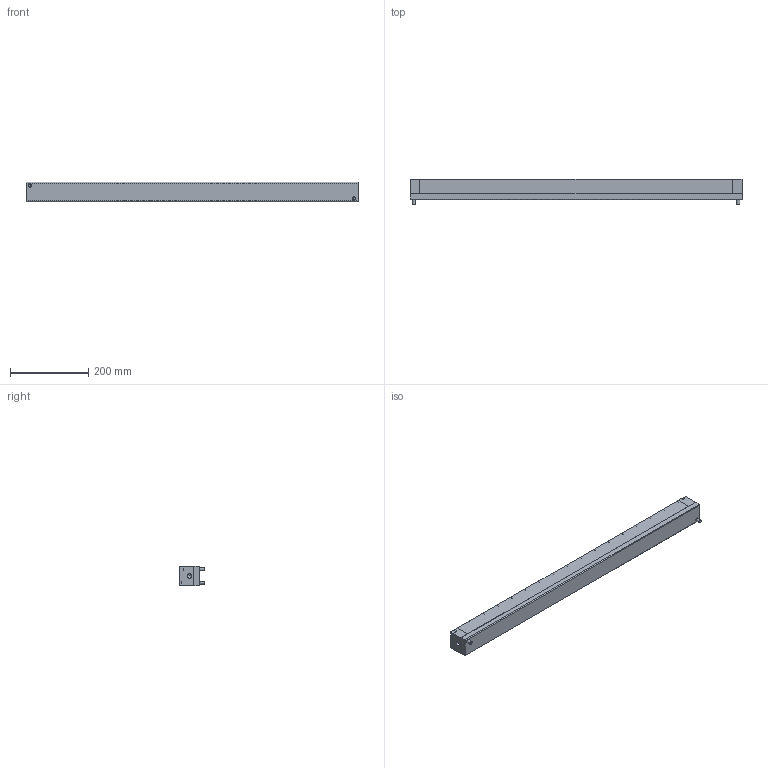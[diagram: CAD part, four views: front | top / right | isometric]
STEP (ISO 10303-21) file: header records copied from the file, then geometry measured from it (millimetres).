
FILE_DESCRIPTION( ( 'STEP AP214' ), '1' );
FILE_NAME( 'Z:/01-DesignData/標準品図面/★Web／カタログ用データ(型式別 3点Set)/072-ISR-C50D 系/ISR-C50D-850-A_0_.stp', '2022-05-10T00:44:25', ( 'License CC BY-ND 4.0' ), ( 'CADENAS' ), ' ', 'PARTsolutions', ' ' );
FILE_SCHEMA( ( 'AUTOMOTIVE_DESIGN { 1 0 10303 214 1 1 1 1 }' ) );
Length unit declared in the file: millimetre
Products named in the file (5): ISR-C50D-850-A(0); _ISR-C50D-850-A-Body; _ISR-C50D-850-A-Box; _ISR-C50D-850-A(0)-Ball; _ISR-C50D-850-A-screw
Assembly tree (20 placements, depth 2):
  ISR-C50D-850-A(0)
    _ISR-C50D-850-A-Body
    _ISR-C50D-850-A-Box
    _ISR-C50D-850-A(0)-Ball  x16
    _ISR-C50D-850-A-screw  x2
Bounding box: 850 x 64 x 49.5 mm (x, y, z)
Volume: 2072433.6 mm3; surface area: 470617.4 mm2
Topology: 20 solids, 20 shells, 928 faces, 1978 edges, 1210 vertices
Faces by surface type: plane 632, cylinder 156, torus 68, cone 56, sphere 16
Full cylindrical faces by diameter (mm): 8 x2, 8.5 x32, 9 x2, 9.5 x32, 13 x4, 14.5 x4, 25.4 x16, 38.5 x16, 39 x16, 42 x32
Entity records: 25292 total; most frequent: DIRECTION 3432, CARTESIAN_POINT 3166, ORIENTED_EDGE 2810, EDGE_CURVE 1405, AXIS2_PLACEMENT_3D 1248, EDGE_LOOP 1052, VERTEX_POINT 982, LINE 936
